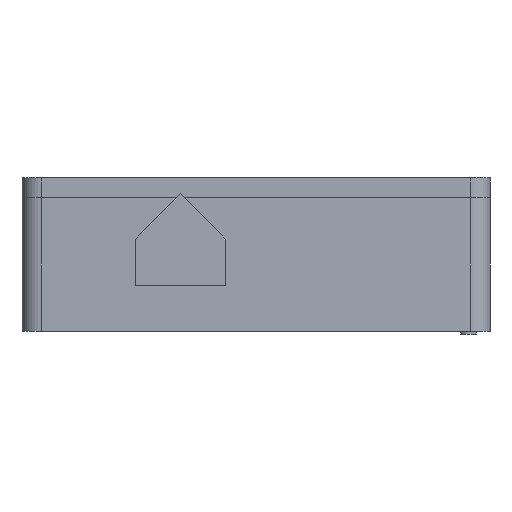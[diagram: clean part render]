
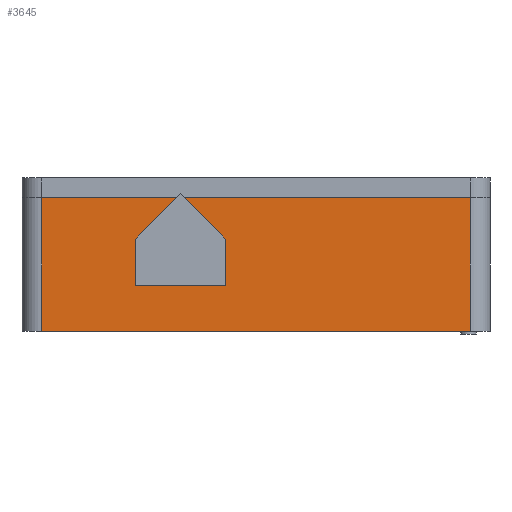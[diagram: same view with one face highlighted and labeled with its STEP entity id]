
A CAD part, left-side view. The second image highlights one B-rep face of the part: STEP entity #3645.
In plain terms, the highlighted planar face has unit normal (-1, 0, 0).
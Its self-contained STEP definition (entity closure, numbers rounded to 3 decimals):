
#106 = PLANE('',#107);
#107 = AXIS2_PLACEMENT_3D('',#108,#109,#110);
#108 = CARTESIAN_POINT('',(97.1,-71.6,41.));
#109 = DIRECTION('',(-0.,-0.,1.));
#110 = DIRECTION('',(1.,0.,0.));
#162 = PLANE('',#163);
#163 = AXIS2_PLACEMENT_3D('',#164,#165,#166);
#164 = CARTESIAN_POINT('',(97.1,-71.6,0.));
#165 = DIRECTION('',(0.,0.,1.));
#166 = DIRECTION('',(1.,0.,0.));
#385 = VERTEX_POINT('',#386);
#386 = CARTESIAN_POINT('',(-97.1,-65.6,41.));
#401 = CYLINDRICAL_SURFACE('',#402,6.);
#402 = AXIS2_PLACEMENT_3D('',#403,#404,#405);
#403 = CARTESIAN_POINT('',(-91.1,-65.6,0.));
#404 = DIRECTION('',(-0.,-0.,1.));
#405 = DIRECTION('',(-1.,-0.,-0.));
#413 = EDGE_CURVE('',#385,#414,#416,.T.);
#414 = VERTEX_POINT('',#415);
#415 = CARTESIAN_POINT('',(-97.1,65.6,41.));
#416 = SURFACE_CURVE('',#417,(#421,#428),.PCURVE_S1.);
#417 = LINE('',#418,#419);
#418 = CARTESIAN_POINT('',(-97.1,-71.6,41.));
#419 = VECTOR('',#420,1.);
#420 = DIRECTION('',(-0.,1.,0.));
#421 = PCURVE('',#106,#422);
#422 = DEFINITIONAL_REPRESENTATION('',(#423),#427);
#423 = LINE('',#424,#425);
#424 = CARTESIAN_POINT('',(-194.2,0.));
#425 = VECTOR('',#426,1.);
#426 = DIRECTION('',(0.,1.));
#427 = ( GEOMETRIC_REPRESENTATION_CONTEXT(2) 
PARAMETRIC_REPRESENTATION_CONTEXT() REPRESENTATION_CONTEXT('2D SPACE',''
  ) );
#428 = PCURVE('',#429,#434);
#429 = PLANE('',#430);
#430 = AXIS2_PLACEMENT_3D('',#431,#432,#433);
#431 = CARTESIAN_POINT('',(-97.1,-71.6,0.));
#432 = DIRECTION('',(-1.,-0.,0.));
#433 = DIRECTION('',(0.,0.,-1.));
#434 = DEFINITIONAL_REPRESENTATION('',(#435),#439);
#435 = LINE('',#436,#437);
#436 = CARTESIAN_POINT('',(-41.,-0.));
#437 = VECTOR('',#438,1.);
#438 = DIRECTION('',(-0.,-1.));
#439 = ( GEOMETRIC_REPRESENTATION_CONTEXT(2) 
PARAMETRIC_REPRESENTATION_CONTEXT() REPRESENTATION_CONTEXT('2D SPACE',''
  ) );
#462 = CYLINDRICAL_SURFACE('',#463,6.);
#463 = AXIS2_PLACEMENT_3D('',#464,#465,#466);
#464 = CARTESIAN_POINT('',(-91.1,65.6,0.));
#465 = DIRECTION('',(-0.,-0.,1.));
#466 = DIRECTION('',(-1.,-0.,-0.));
#1027 = VERTEX_POINT('',#1028);
#1028 = CARTESIAN_POINT('',(-97.1,-65.6,0.));
#1050 = EDGE_CURVE('',#1027,#1051,#1053,.T.);
#1051 = VERTEX_POINT('',#1052);
#1052 = CARTESIAN_POINT('',(-97.1,65.6,0.));
#1053 = SURFACE_CURVE('',#1054,(#1058,#1065),.PCURVE_S1.);
#1054 = LINE('',#1055,#1056);
#1055 = CARTESIAN_POINT('',(-97.1,-71.6,0.));
#1056 = VECTOR('',#1057,1.);
#1057 = DIRECTION('',(-0.,1.,0.));
#1058 = PCURVE('',#162,#1059);
#1059 = DEFINITIONAL_REPRESENTATION('',(#1060),#1064);
#1060 = LINE('',#1061,#1062);
#1061 = CARTESIAN_POINT('',(-194.2,0.));
#1062 = VECTOR('',#1063,1.);
#1063 = DIRECTION('',(-0.,1.));
#1064 = ( GEOMETRIC_REPRESENTATION_CONTEXT(2) 
PARAMETRIC_REPRESENTATION_CONTEXT() REPRESENTATION_CONTEXT('2D SPACE',''
  ) );
#1065 = PCURVE('',#429,#1066);
#1066 = DEFINITIONAL_REPRESENTATION('',(#1067),#1071);
#1067 = LINE('',#1068,#1069);
#1068 = CARTESIAN_POINT('',(-0.,-0.));
#1069 = VECTOR('',#1070,1.);
#1070 = DIRECTION('',(-0.,-1.));
#1071 = ( GEOMETRIC_REPRESENTATION_CONTEXT(2) 
PARAMETRIC_REPRESENTATION_CONTEXT() REPRESENTATION_CONTEXT('2D SPACE',''
  ) );
#3598 = EDGE_CURVE('',#1027,#385,#3599,.T.);
#3599 = SURFACE_CURVE('',#3600,(#3604,#3611),.PCURVE_S1.);
#3600 = LINE('',#3601,#3602);
#3601 = CARTESIAN_POINT('',(-97.1,-65.6,0.));
#3602 = VECTOR('',#3603,1.);
#3603 = DIRECTION('',(-0.,-0.,1.));
#3604 = PCURVE('',#401,#3605);
#3605 = DEFINITIONAL_REPRESENTATION('',(#3606),#3610);
#3606 = LINE('',#3607,#3608);
#3607 = CARTESIAN_POINT('',(0.,0.));
#3608 = VECTOR('',#3609,1.);
#3609 = DIRECTION('',(0.,1.));
#3610 = ( GEOMETRIC_REPRESENTATION_CONTEXT(2) 
PARAMETRIC_REPRESENTATION_CONTEXT() REPRESENTATION_CONTEXT('2D SPACE',''
  ) );
#3611 = PCURVE('',#429,#3612);
#3612 = DEFINITIONAL_REPRESENTATION('',(#3613),#3617);
#3613 = LINE('',#3614,#3615);
#3614 = CARTESIAN_POINT('',(-0.,-6.));
#3615 = VECTOR('',#3616,1.);
#3616 = DIRECTION('',(-1.,-0.));
#3617 = ( GEOMETRIC_REPRESENTATION_CONTEXT(2) 
PARAMETRIC_REPRESENTATION_CONTEXT() REPRESENTATION_CONTEXT('2D SPACE',''
  ) );
#3625 = EDGE_CURVE('',#1051,#414,#3626,.T.);
#3626 = SURFACE_CURVE('',#3627,(#3631,#3638),.PCURVE_S1.);
#3627 = LINE('',#3628,#3629);
#3628 = CARTESIAN_POINT('',(-97.1,65.6,0.));
#3629 = VECTOR('',#3630,1.);
#3630 = DIRECTION('',(-0.,-0.,1.));
#3631 = PCURVE('',#462,#3632);
#3632 = DEFINITIONAL_REPRESENTATION('',(#3633),#3637);
#3633 = LINE('',#3634,#3635);
#3634 = CARTESIAN_POINT('',(-0.,0.));
#3635 = VECTOR('',#3636,1.);
#3636 = DIRECTION('',(-0.,1.));
#3637 = ( GEOMETRIC_REPRESENTATION_CONTEXT(2) 
PARAMETRIC_REPRESENTATION_CONTEXT() REPRESENTATION_CONTEXT('2D SPACE',''
  ) );
#3638 = PCURVE('',#429,#3639);
#3639 = DEFINITIONAL_REPRESENTATION('',(#3640),#3644);
#3640 = LINE('',#3641,#3642);
#3641 = CARTESIAN_POINT('',(-0.,-137.2));
#3642 = VECTOR('',#3643,1.);
#3643 = DIRECTION('',(-1.,-0.));
#3644 = ( GEOMETRIC_REPRESENTATION_CONTEXT(2) 
PARAMETRIC_REPRESENTATION_CONTEXT() REPRESENTATION_CONTEXT('2D SPACE',''
  ) );
#3645 = ADVANCED_FACE('',(#3646,#3652),#429,.T.);
#3646 = FACE_BOUND('',#3647,.F.);
#3647 = EDGE_LOOP('',(#3648,#3649,#3650,#3651));
#3648 = ORIENTED_EDGE('',*,*,#413,.F.);
#3649 = ORIENTED_EDGE('',*,*,#3598,.F.);
#3650 = ORIENTED_EDGE('',*,*,#1050,.T.);
#3651 = ORIENTED_EDGE('',*,*,#3625,.T.);
#3652 = FACE_BOUND('',#3653,.F.);
#3653 = EDGE_LOOP('',(#3654,#3684,#3712,#3740,#3768));
#3654 = ORIENTED_EDGE('',*,*,#3655,.T.);
#3655 = EDGE_CURVE('',#3656,#3658,#3660,.T.);
#3656 = VERTEX_POINT('',#3657);
#3657 = CARTESIAN_POINT('',(-97.1,36.,27.5));
#3658 = VERTEX_POINT('',#3659);
#3659 = CARTESIAN_POINT('',(-97.1,36.,15.));
#3660 = SURFACE_CURVE('',#3661,(#3665,#3672),.PCURVE_S1.);
#3661 = LINE('',#3662,#3663);
#3662 = CARTESIAN_POINT('',(-97.1,36.,7.5));
#3663 = VECTOR('',#3664,1.);
#3664 = DIRECTION('',(-0.,-0.,-1.));
#3665 = PCURVE('',#429,#3666);
#3666 = DEFINITIONAL_REPRESENTATION('',(#3667),#3671);
#3667 = LINE('',#3668,#3669);
#3668 = CARTESIAN_POINT('',(-7.5,-107.6));
#3669 = VECTOR('',#3670,1.);
#3670 = DIRECTION('',(1.,-0.));
#3671 = ( GEOMETRIC_REPRESENTATION_CONTEXT(2) 
PARAMETRIC_REPRESENTATION_CONTEXT() REPRESENTATION_CONTEXT('2D SPACE',''
  ) );
#3672 = PCURVE('',#3673,#3678);
#3673 = PLANE('',#3674);
#3674 = AXIS2_PLACEMENT_3D('',#3675,#3676,#3677);
#3675 = CARTESIAN_POINT('',(-93.3,36.,15.));
#3676 = DIRECTION('',(-0.,-1.,-0.));
#3677 = DIRECTION('',(0.,0.,-1.));
#3678 = DEFINITIONAL_REPRESENTATION('',(#3679),#3683);
#3679 = LINE('',#3680,#3681);
#3680 = CARTESIAN_POINT('',(7.5,-3.8));
#3681 = VECTOR('',#3682,1.);
#3682 = DIRECTION('',(1.,-0.));
#3683 = ( GEOMETRIC_REPRESENTATION_CONTEXT(2) 
PARAMETRIC_REPRESENTATION_CONTEXT() REPRESENTATION_CONTEXT('2D SPACE',''
  ) );
#3684 = ORIENTED_EDGE('',*,*,#3685,.T.);
#3685 = EDGE_CURVE('',#3658,#3686,#3688,.T.);
#3686 = VERTEX_POINT('',#3687);
#3687 = CARTESIAN_POINT('',(-97.1,10.,15.));
#3688 = SURFACE_CURVE('',#3689,(#3693,#3700),.PCURVE_S1.);
#3689 = LINE('',#3690,#3691);
#3690 = CARTESIAN_POINT('',(-97.1,-30.8,15.));
#3691 = VECTOR('',#3692,1.);
#3692 = DIRECTION('',(-0.,-1.,-0.));
#3693 = PCURVE('',#429,#3694);
#3694 = DEFINITIONAL_REPRESENTATION('',(#3695),#3699);
#3695 = LINE('',#3696,#3697);
#3696 = CARTESIAN_POINT('',(-15.,-40.8));
#3697 = VECTOR('',#3698,1.);
#3698 = DIRECTION('',(-0.,1.));
#3699 = ( GEOMETRIC_REPRESENTATION_CONTEXT(2) 
PARAMETRIC_REPRESENTATION_CONTEXT() REPRESENTATION_CONTEXT('2D SPACE',''
  ) );
#3700 = PCURVE('',#3701,#3706);
#3701 = PLANE('',#3702);
#3702 = AXIS2_PLACEMENT_3D('',#3703,#3704,#3705);
#3703 = CARTESIAN_POINT('',(-93.3,10.,15.));
#3704 = DIRECTION('',(-0.,-0.,1.));
#3705 = DIRECTION('',(0.,-1.,0.));
#3706 = DEFINITIONAL_REPRESENTATION('',(#3707),#3711);
#3707 = LINE('',#3708,#3709);
#3708 = CARTESIAN_POINT('',(40.8,-3.8));
#3709 = VECTOR('',#3710,1.);
#3710 = DIRECTION('',(1.,-0.));
#3711 = ( GEOMETRIC_REPRESENTATION_CONTEXT(2) 
PARAMETRIC_REPRESENTATION_CONTEXT() REPRESENTATION_CONTEXT('2D SPACE',''
  ) );
#3712 = ORIENTED_EDGE('',*,*,#3713,.T.);
#3713 = EDGE_CURVE('',#3686,#3714,#3716,.T.);
#3714 = VERTEX_POINT('',#3715);
#3715 = CARTESIAN_POINT('',(-97.1,10.,27.5));
#3716 = SURFACE_CURVE('',#3717,(#3721,#3728),.PCURVE_S1.);
#3717 = LINE('',#3718,#3719);
#3718 = CARTESIAN_POINT('',(-97.1,10.,13.75));
#3719 = VECTOR('',#3720,1.);
#3720 = DIRECTION('',(-0.,-0.,1.));
#3721 = PCURVE('',#429,#3722);
#3722 = DEFINITIONAL_REPRESENTATION('',(#3723),#3727);
#3723 = LINE('',#3724,#3725);
#3724 = CARTESIAN_POINT('',(-13.75,-81.6));
#3725 = VECTOR('',#3726,1.);
#3726 = DIRECTION('',(-1.,-0.));
#3727 = ( GEOMETRIC_REPRESENTATION_CONTEXT(2) 
PARAMETRIC_REPRESENTATION_CONTEXT() REPRESENTATION_CONTEXT('2D SPACE',''
  ) );
#3728 = PCURVE('',#3729,#3734);
#3729 = PLANE('',#3730);
#3730 = AXIS2_PLACEMENT_3D('',#3731,#3732,#3733);
#3731 = CARTESIAN_POINT('',(-93.3,10.,27.5));
#3732 = DIRECTION('',(-0.,1.,-0.));
#3733 = DIRECTION('',(0.,0.,1.));
#3734 = DEFINITIONAL_REPRESENTATION('',(#3735),#3739);
#3735 = LINE('',#3736,#3737);
#3736 = CARTESIAN_POINT('',(-13.75,-3.8));
#3737 = VECTOR('',#3738,1.);
#3738 = DIRECTION('',(1.,-0.));
#3739 = ( GEOMETRIC_REPRESENTATION_CONTEXT(2) 
PARAMETRIC_REPRESENTATION_CONTEXT() REPRESENTATION_CONTEXT('2D SPACE',''
  ) );
#3740 = ORIENTED_EDGE('',*,*,#3741,.T.);
#3741 = EDGE_CURVE('',#3714,#3742,#3744,.T.);
#3742 = VERTEX_POINT('',#3743);
#3743 = CARTESIAN_POINT('',(-97.1,23.,40.5));
#3744 = SURFACE_CURVE('',#3745,(#3749,#3756),.PCURVE_S1.);
#3745 = LINE('',#3746,#3747);
#3746 = CARTESIAN_POINT('',(-97.1,-10.775,6.725));
#3747 = VECTOR('',#3748,1.);
#3748 = DIRECTION('',(-0.,0.707,0.707));
#3749 = PCURVE('',#429,#3750);
#3750 = DEFINITIONAL_REPRESENTATION('',(#3751),#3755);
#3751 = LINE('',#3752,#3753);
#3752 = CARTESIAN_POINT('',(-6.725,-60.825));
#3753 = VECTOR('',#3754,1.);
#3754 = DIRECTION('',(-0.707,-0.707));
#3755 = ( GEOMETRIC_REPRESENTATION_CONTEXT(2) 
PARAMETRIC_REPRESENTATION_CONTEXT() REPRESENTATION_CONTEXT('2D SPACE',''
  ) );
#3756 = PCURVE('',#3757,#3762);
#3757 = PLANE('',#3758);
#3758 = AXIS2_PLACEMENT_3D('',#3759,#3760,#3761);
#3759 = CARTESIAN_POINT('',(-93.3,23.,40.5));
#3760 = DIRECTION('',(-0.,0.707,-0.707));
#3761 = DIRECTION('',(0.,0.707,0.707));
#3762 = DEFINITIONAL_REPRESENTATION('',(#3763),#3767);
#3763 = LINE('',#3764,#3765);
#3764 = CARTESIAN_POINT('',(-47.765,-3.8));
#3765 = VECTOR('',#3766,1.);
#3766 = DIRECTION('',(1.,-0.));
#3767 = ( GEOMETRIC_REPRESENTATION_CONTEXT(2) 
PARAMETRIC_REPRESENTATION_CONTEXT() REPRESENTATION_CONTEXT('2D SPACE',''
  ) );
#3768 = ORIENTED_EDGE('',*,*,#3769,.T.);
#3769 = EDGE_CURVE('',#3742,#3656,#3770,.T.);
#3770 = SURFACE_CURVE('',#3771,(#3775,#3782),.PCURVE_S1.);
#3771 = LINE('',#3772,#3773);
#3772 = CARTESIAN_POINT('',(-97.1,15.975,47.525));
#3773 = VECTOR('',#3774,1.);
#3774 = DIRECTION('',(-0.,0.707,-0.707));
#3775 = PCURVE('',#429,#3776);
#3776 = DEFINITIONAL_REPRESENTATION('',(#3777),#3781);
#3777 = LINE('',#3778,#3779);
#3778 = CARTESIAN_POINT('',(-47.525,-87.575));
#3779 = VECTOR('',#3780,1.);
#3780 = DIRECTION('',(0.707,-0.707));
#3781 = ( GEOMETRIC_REPRESENTATION_CONTEXT(2) 
PARAMETRIC_REPRESENTATION_CONTEXT() REPRESENTATION_CONTEXT('2D SPACE',''
  ) );
#3782 = PCURVE('',#3783,#3788);
#3783 = PLANE('',#3784);
#3784 = AXIS2_PLACEMENT_3D('',#3785,#3786,#3787);
#3785 = CARTESIAN_POINT('',(-93.3,36.,27.5));
#3786 = DIRECTION('',(-0.,-0.707,-0.707));
#3787 = DIRECTION('',(0.,0.707,-0.707));
#3788 = DEFINITIONAL_REPRESENTATION('',(#3789),#3793);
#3789 = LINE('',#3790,#3791);
#3790 = CARTESIAN_POINT('',(-28.32,-3.8));
#3791 = VECTOR('',#3792,1.);
#3792 = DIRECTION('',(1.,-0.));
#3793 = ( GEOMETRIC_REPRESENTATION_CONTEXT(2) 
PARAMETRIC_REPRESENTATION_CONTEXT() REPRESENTATION_CONTEXT('2D SPACE',''
  ) );
